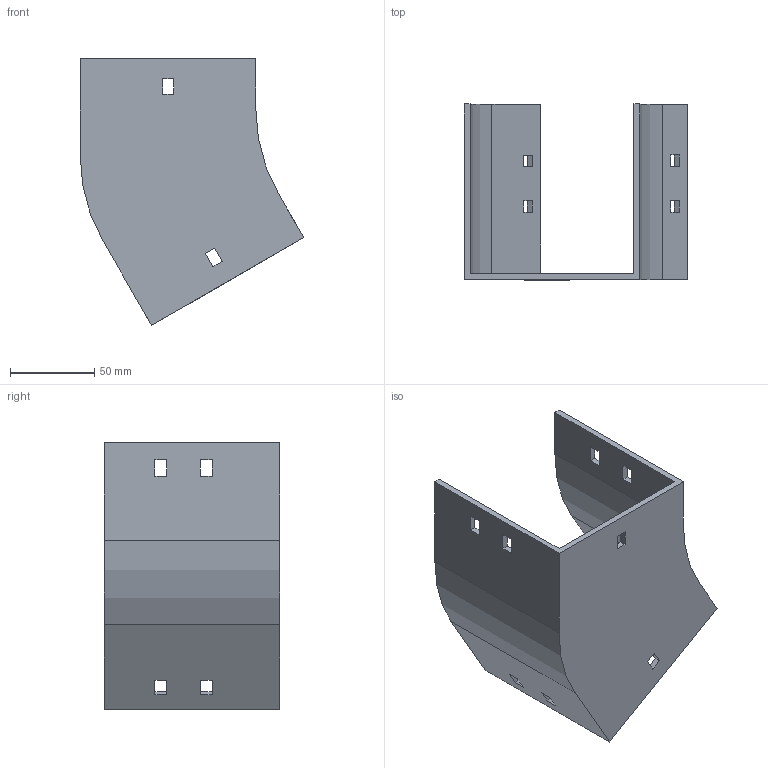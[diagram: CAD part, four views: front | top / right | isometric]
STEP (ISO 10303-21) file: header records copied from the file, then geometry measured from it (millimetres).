
FILE_DESCRIPTION (( 'STEP AP214' ), '1' );
FILE_NAME ('12F1D100.step', '2025-02-21T12:53:26', ( '' ), ( '' ), 'SwSTEP 2.0', 'SolidWorks 2023', '' );
FILE_SCHEMA (( 'AUTOMOTIVE_DESIGN' ));
Length unit declared in the file: millimetre
Products named in the file (1): 12F1D100
Bounding box: 132.4 x 104 x 157.98 mm (x, y, z)
Volume: 147770.1 mm3; surface area: 88725.6 mm2
Topology: 1 solids, 1 shells, 58 faces, 168 edges, 112 vertices
Faces by surface type: plane 54, cylinder 4
Entity records: 1943 total; most frequent: CARTESIAN_POINT 339, ORIENTED_EDGE 336, DIRECTION 294, EDGE_CURVE 168, LINE 160, VECTOR 160, VERTEX_POINT 112, EDGE_LOOP 78
